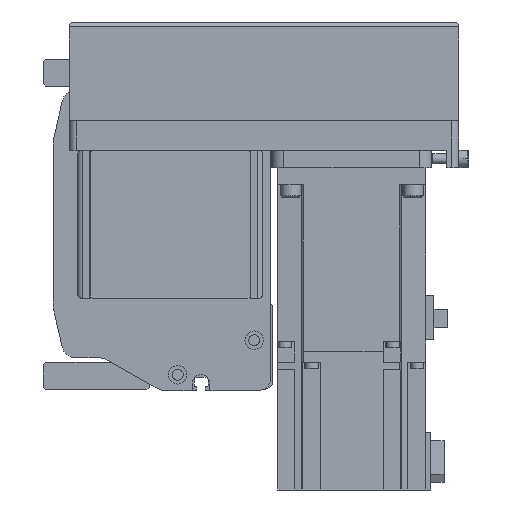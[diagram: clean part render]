
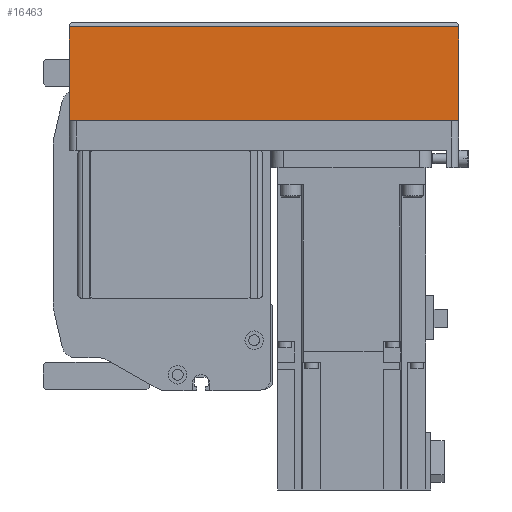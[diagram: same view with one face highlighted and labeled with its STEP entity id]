
A CAD part, left-side view. The second image highlights one B-rep face of the part: STEP entity #16463.
In plain terms, the highlighted planar face has unit normal (-1, 0, 0) as drawn and (0, -1, 0) by its records, which use the part's own axes.
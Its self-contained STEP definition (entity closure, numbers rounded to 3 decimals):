
#2604=ORIENTED_EDGE('',*,*,#6619,.F.);
#2605=ORIENTED_EDGE('',*,*,#6601,.F.);
#2606=ORIENTED_EDGE('',*,*,#6636,.T.);
#2607=ORIENTED_EDGE('',*,*,#6691,.T.);
#6601=EDGE_CURVE('',#8799,#8800,#10477,.T.);
#6619=EDGE_CURVE('',#8800,#8816,#10495,.T.);
#6636=EDGE_CURVE('',#8799,#8826,#10508,.T.);
#6691=EDGE_CURVE('',#8826,#8816,#10536,.T.);
#8799=VERTEX_POINT('',#25284);
#8800=VERTEX_POINT('',#25285);
#8816=VERTEX_POINT('',#25322);
#8826=VERTEX_POINT('',#25352);
#10477=LINE('',#25283,#12057);
#10495=LINE('',#25321,#12075);
#10508=LINE('',#25353,#12088);
#10536=LINE('',#25451,#12116);
#12057=VECTOR('',#20243,1000.);
#12075=VECTOR('',#20267,1000.);
#12088=VECTOR('',#20296,1000.);
#12116=VECTOR('',#20424,1000.);
#13525=EDGE_LOOP('',(#2604,#2605,#2606,#2607));
#14725=FACE_BOUND('',#13525,.T.);
#15752=PLANE('',#17668);
#16463=ADVANCED_FACE('',(#14725),#15752,.T.);
#17668=AXIS2_PLACEMENT_3D('',#25452,#20425,#20426);
#20243=DIRECTION('',(1.,0.,0.));
#20267=DIRECTION('',(0.,0.,-1.));
#20296=DIRECTION('',(0.,0.,-1.));
#20424=DIRECTION('',(1.,0.,0.));
#20425=DIRECTION('',(0.,-1.,0.));
#20426=DIRECTION('',(0.,0.,-1.));
#25283=CARTESIAN_POINT('',(-158.,-39.,-12.1));
#25284=CARTESIAN_POINT('',(-158.,-39.,-12.1));
#25285=CARTESIAN_POINT('',(0.,-39.,-12.1));
#25321=CARTESIAN_POINT('',(0.,-39.,-12.1));
#25322=CARTESIAN_POINT('',(0.,-39.,-50.));
#25352=CARTESIAN_POINT('',(-158.,-39.,-50.));
#25353=CARTESIAN_POINT('',(-158.,-39.,-12.1));
#25451=CARTESIAN_POINT('',(-158.,-39.,-50.));
#25452=CARTESIAN_POINT('',(-158.,-39.,-12.1));
